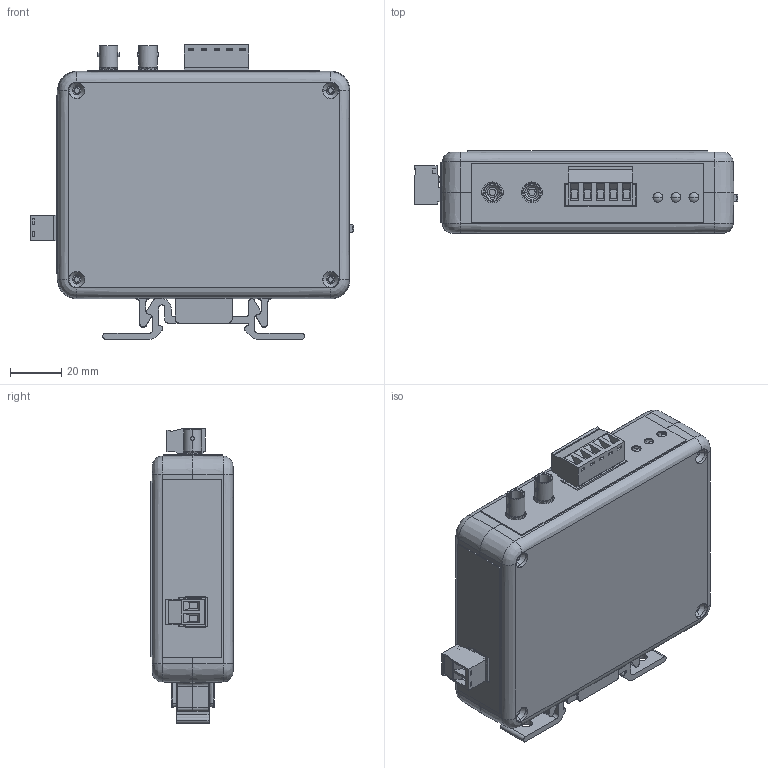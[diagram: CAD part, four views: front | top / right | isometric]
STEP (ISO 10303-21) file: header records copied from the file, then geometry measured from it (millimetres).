
FILE_DESCRIPTION (( 'STEP AP214' ), '1' );
FILE_NAME ('FOSTCDRI.STEP', '2020-09-10T19:21:39', ( '' ), ( '' ), 'SwSTEP 2.0', 'SolidWorks 2016', '' );
FILE_SCHEMA (( 'AUTOMOTIVE_DESIGN' ));
Length unit declared in the file: inch
Products named in the file (18): FOSTCDRI; 250-10538-00 Side; 250-10538-00 Front; 250-10538-00 Top; 7466 5 POS Plug; 7444 2 POS Terminal Plug; 7465 5 POS Header; 7100 Switch; 7445 2 POS Terminal Header; 7140 12 POS Dip Switch; 4330 Fiber Reciever; 4329 Fiber Transmitter; 2794 LED Rt Angle; 9538 Assembly; 9538 PCB; 9538 Clip; 9538 Top; 9538 Bottom
Assembly tree (19 placements, depth 3):
  FOSTCDRI
    9538 Assembly
      9538 Bottom
      9538 Top
      9538 Clip
      9538 PCB
    2794 LED Rt Angle  x3
    4329 Fiber Transmitter
    4330 Fiber Reciever
    7140 12 POS Dip Switch
    7445 2 POS Terminal Header
    7100 Switch
    7465 5 POS Header
    7444 2 POS Terminal Plug
    7466 5 POS Plug
    250-10538-00 Top
    250-10538-00 Front
    250-10538-00 Side
Bounding box: 126.84 x 32.13 x 115.38 mm (x, y, z)
Volume: 120971.4 mm3; surface area: 118594.2 mm2
Topology: 18 solids, 18 shells, 2315 faces, 5887 edges, 3728 vertices
Faces by surface type: plane 1633, cylinder 410, cone 144, bspline 62, sphere 34, torus 32
Entity records: 80896 total; most frequent: CARTESIAN_POINT 15187, ORIENTED_EDGE 11510, DIRECTION 10966, EDGE_CURVE 5755, VECTOR 4344, LINE 4344, VERTEX_POINT 3660, AXIS2_PLACEMENT_3D 3311
